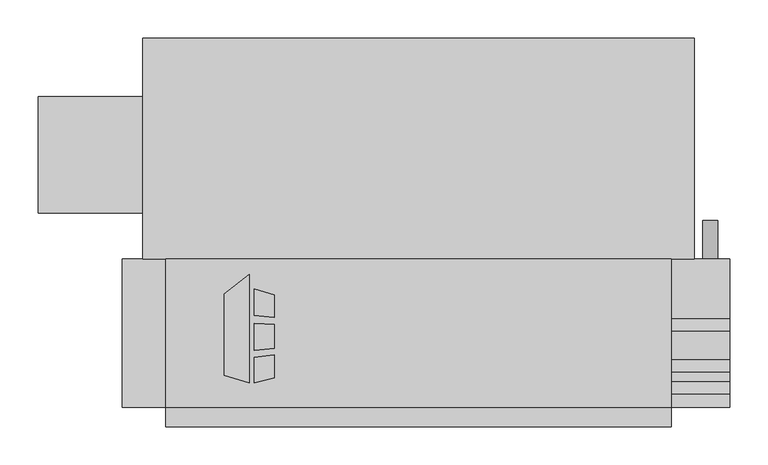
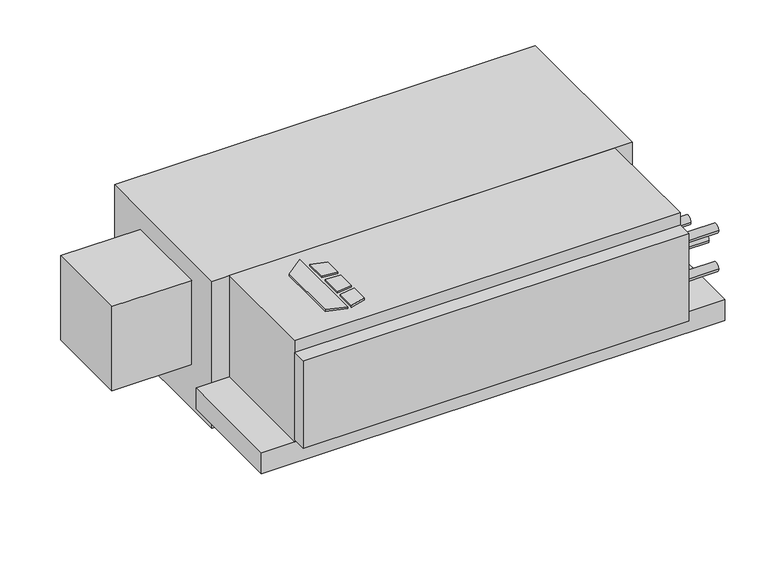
"""IFC4 building model written with IfcOpenShell, lengths in millimetres: proxy geometry, Concealed_Horizontal_Fan_Coil_Unit_With_Plenum_-_CPY_-_IEC_-_4-Pipe_RH_2022 : Size 04 - 277v/60Hz/1Ph - 4/1 Coil."""

import ifcopenshell
import ifcopenshell.guid

model = None  # the IFC model being written
_history = None  # IfcOwnerHistory: only IFC2X3 demands one
_inside = {}  # id of a spatial element -> (the spatial element, [elements in it])
_under = {}  # id of a project, library or spatial element -> (it, [spatial elements below it])
_declared = {}  # id of a project -> (the project, [libraries it declares])
_typed = {}  # id of a type object -> (the type object, [elements of that type])
_made_of = {}  # id of a material, layer set ... -> (it, [elements and type objects made of it])


def new_model(schema):
    """Start an empty IFC model of exactly this schema.

    Asked for "IFC4X3", IfcOpenShell would pick the latest addendum, in which some entities
    have other attributes; the version numbers below select the first issue.
    IFC2X3 requires an IfcOwnerHistory on every rooted entity: one is made here for all.
    """
    global model, _history
    if schema == "IFC4X3":
        model = ifcopenshell.file(schema_version=(4, 3, 0, 0))
    else:
        model = ifcopenshell.file(schema=schema)
    _inside.clear()
    _under.clear()
    _declared.clear()
    _typed.clear()
    _made_of.clear()
    _history = None
    if model.schema == "IFC2X3":
        org = make("IfcOrganization", Name="unknown")
        user = make(
            "IfcPersonAndOrganization",
            ThePerson=make("IfcPerson", FamilyName="unknown"),
            TheOrganization=org,
        )
        app = make(
            "IfcApplication",
            ApplicationDeveloper=org,
            Version="unknown",
            ApplicationFullName="unknown",
            ApplicationIdentifier="unknown",
        )
        _history = make(
            "IfcOwnerHistory",
            OwningUser=user,
            OwningApplication=app,
            ChangeAction="ADDED",
            CreationDate=0,
        )
    return model


def make(cls, **values):
    """One entity of the class cls with the attributes given. An attribute that is None is left unset."""
    return model.create_entity(
        cls, **{name: value for name, value in values.items() if value is not None}
    )


def rooted(cls, **values):
    """An entity with a GlobalId (a new one), such as an element, a storey or a relation."""
    return make(cls, GlobalId=ifcopenshell.guid.new(), OwnerHistory=_history, **values)


def si_unit(unit_type, name, prefix=None):
    """IfcSIUnit, for example si_unit("LENGTHUNIT", "METRE", prefix="MILLI")."""
    return make("IfcSIUnit", UnitType=unit_type, Prefix=prefix, Name=name)


def assignment(units):
    """IfcUnitAssignment: the units of a project."""
    return None if units is None else make("IfcUnitAssignment", Units=units)


def point(xyz):
    """IfcCartesianPoint."""
    return None if xyz is None else make("IfcCartesianPoint", Coordinates=xyz)


def direction(xyz):
    """IfcDirection."""
    return None if xyz is None else make("IfcDirection", DirectionRatios=xyz)


def frame(location, z_axis=None, x_axis=None):
    """IfcAxis2Placement3D, a coordinate frame: its origin and axes. An axis left out is left unset."""
    return make(
        "IfcAxis2Placement3D",
        Location=point(location),
        Axis=direction(z_axis),
        RefDirection=direction(x_axis),
    )


def frame_2d(location, x_axis=None):
    """IfcAxis2Placement2D, a coordinate frame in the plane: its origin and x axis."""
    return make(
        "IfcAxis2Placement2D", Location=point(location), RefDirection=direction(x_axis)
    )


def origin():
    """The frame at (0, 0, 0) with its axes left unset."""
    return frame((0.0, 0.0, 0.0))


def origin_with_axes():
    """The frame at (0, 0, 0) with the z axis (0, 0, 1) and the x axis (1, 0, 0) written out."""
    return frame((0.0, 0.0, 0.0), z_axis=(0.0, 0.0, 1.0), x_axis=(1.0, 0.0, 0.0))


def place(relative_to, where):
    """IfcLocalPlacement: puts the frame where relative to a parent placement (None: the world)."""
    return make(
        "IfcLocalPlacement", PlacementRelTo=relative_to, RelativePlacement=where
    )


def context(
    kind, dimensions, precision=None, world=None, true_north=None, identifier=None
):
    """IfcGeometricRepresentationContext, for example the 3D "Model" context."""
    return make(
        "IfcGeometricRepresentationContext",
        ContextIdentifier=identifier,
        ContextType=kind,
        CoordinateSpaceDimension=dimensions,
        Precision=precision,
        WorldCoordinateSystem=world,
        TrueNorth=true_north,
    )


def project(units=None, contexts=None):
    """IfcProject with its units and contexts."""
    return rooted(
        "IfcProject",
        Name="project",
        RepresentationContexts=contexts,
        UnitsInContext=assignment(units),
    )


def spatial(cls, under=None, at=None, **own):
    """A site, building, storey or space (cls), placed at a placement, below another one or the project."""
    s = rooted(cls, ObjectPlacement=at, **own)
    if under is not None:
        _under.setdefault(under.id(), (under, []))[1].append(s)
    return s


def polyline(points):
    """IfcPolyline through the points."""
    return make("IfcPolyline", Points=[point(p) for p in points])


def circle_curve(where, radius):
    """IfcCircle in the frame where."""
    return make("IfcCircle", Position=where, Radius=radius)


def trimmed(basis, trim1, trim2, sense, master):
    """IfcTrimmedCurve: the piece of a basis curve between two trims."""
    return make(
        "IfcTrimmedCurve",
        BasisCurve=basis,
        Trim1=trim1,
        Trim2=trim2,
        SenseAgreement=sense,
        MasterRepresentation=master,
    )


def segment(curve, same_sense, transition):
    """IfcCompositeCurveSegment."""
    return make(
        "IfcCompositeCurveSegment",
        Transition=transition,
        SameSense=same_sense,
        ParentCurve=curve,
    )


def composite_curve(segments, self_intersect=None):
    """IfcCompositeCurve: segments joined end to end."""
    return make("IfcCompositeCurve", Segments=segments, SelfIntersect=self_intersect)


def outline(outer, holes=None, kind="AREA"):
    """IfcArbitraryClosedProfileDef: a profile drawn as a closed curve; with holes, ...WithVoids."""
    if holes is None:
        return make("IfcArbitraryClosedProfileDef", ProfileType=kind, OuterCurve=outer)
    return make(
        "IfcArbitraryProfileDefWithVoids",
        ProfileType=kind,
        OuterCurve=outer,
        InnerCurves=holes,
    )


def extrude(swept, where, along, depth):
    """IfcExtrudedAreaSolid: the profile swept, set in the frame where, extruded along a direction by depth."""
    return make(
        "IfcExtrudedAreaSolid",
        SweptArea=swept,
        Position=where,
        ExtrudedDirection=direction(along),
        Depth=depth,
    )


def shape(context_of_items, identifier, shape_type, items):
    """IfcShapeRepresentation: the items that make up one representation, for example the "Body"."""
    return make(
        "IfcShapeRepresentation",
        ContextOfItems=context_of_items,
        RepresentationIdentifier=identifier,
        RepresentationType=shape_type,
        Items=items,
    )


def source(mapping_origin, context_of_items, identifier, shape_type, items):
    """IfcRepresentationMap: a shape defined once, which mapped items show again and again."""
    return make(
        "IfcRepresentationMap",
        MappingOrigin=mapping_origin,
        MappedRepresentation=shape(context_of_items, identifier, shape_type, items),
    )


def transform(
    local_origin,
    x_axis=None,
    y_axis=None,
    z_axis=None,
    scale=None,
    scale2=None,
    scale3=None,
    uniform=True,
):
    """IfcCartesianTransformationOperator3D, or its non-uniform kind. x_axis, y_axis, z_axis: its Axis1, 2, 3."""
    if uniform:
        return make(
            "IfcCartesianTransformationOperator3D",
            Axis1=direction(x_axis),
            Axis2=direction(y_axis),
            LocalOrigin=point(local_origin),
            Scale=scale,
            Axis3=direction(z_axis),
        )
    return make(
        "IfcCartesianTransformationOperator3DnonUniform",
        Axis1=direction(x_axis),
        Axis2=direction(y_axis),
        LocalOrigin=point(local_origin),
        Scale=scale,
        Axis3=direction(z_axis),
        Scale2=scale2,
        Scale3=scale3,
    )


def mapped(mapping_source, mapping_target):
    """IfcMappedItem: shows the shape of a source again, moved by a transform."""
    return make(
        "IfcMappedItem", MappingSource=mapping_source, MappingTarget=mapping_target
    )


def made_of(thing, what):
    """Note that an element or type object is made of a material, layer set ...; save() writes the relation."""
    if what is not None:
        _made_of.setdefault(what.id(), (what, []))[1].append(thing)
    return thing


def element(
    cls,
    number,
    at=None,
    inside=None,
    cuts=None,
    type_object=None,
    material=None,
    context=None,
    identifier="Body",
    shape_type=None,
    held_by="IfcProductDefinitionShape",
    body=None,
    shapes=None,
    **own,
):
    """One element of the class cls, such as IfcWall. Its Tag is "e" and its number.

    at: its placement. inside: the storey or other place that contains it. cuts: it is an
    opening in that element (IfcRelVoidsElement). A single representation is given by context,
    identifier, shape_type and body (its items); several are given by shapes. held_by: the class
    of the entity that holds the representations. save() writes the other relations.
    """
    e = rooted(cls, Tag="e%d" % number, ObjectPlacement=at, **own)
    if body is not None:
        shapes = [shape(context, identifier, shape_type, body)]
    if shapes is not None:
        e.Representation = make(held_by, Representations=shapes)
    if inside is not None:
        _inside.setdefault(inside.id(), (inside, []))[1].append(e)
    if cuts is not None:
        rooted(
            "IfcRelVoidsElement", RelatingBuildingElement=cuts, RelatedOpeningElement=e
        )
    if type_object is not None:
        _typed.setdefault(type_object.id(), (type_object, []))[1].append(e)
    return made_of(e, material)


def aggregate(whole, parts):
    """IfcRelAggregates: a whole, such as a stair, and the parts it consists of."""
    return rooted("IfcRelAggregates", RelatingObject=whole, RelatedObjects=parts)


def save(model, path):
    """Write the relations noted so far, then the file.

    IfcRelAggregates (storeys below a building ...), IfcRelContainedInSpatialStructure (elements
    in a storey), IfcRelDefinesByType, IfcRelAssociatesMaterial and IfcRelDeclares: one each for
    every whole, place, type object, material and project.
    """
    for whole, parts in _under.values():
        aggregate(whole, parts)
    for where, things in _inside.values():
        rooted(
            "IfcRelContainedInSpatialStructure",
            RelatedElements=things,
            RelatingStructure=where,
        )
    for kind, things in _typed.values():
        rooted("IfcRelDefinesByType", RelatedObjects=things, RelatingType=kind)
    for what, things in _made_of.values():
        rooted("IfcRelAssociatesMaterial", RelatedObjects=things, RelatingMaterial=what)
    for by, libraries in _declared.values():
        rooted("IfcRelDeclares", RelatingContext=by, RelatedDefinitions=libraries)
    model.write(path)


def mechanical_equipment_384acc31(model_context):
    return source(origin(), model_context, "Body", "SweptSolid", [
        extrude(outline(polyline([(-101.6, -186.6953476), (-69.0417033, -161.2580184), (-69.0417033, -303.2125), (-101.6, -292.9929201), (-101.6, -186.6953476)])), origin_with_axes(), (0.0, 0.0, 1.0), 3.175),
        extrude(outline(polyline([(-62.2833703, -214.567352), (-62.2833703, -180.0874379), (-36.2019761, -188.2740115), (-36.2019761, -217.7697446), (-62.2833703, -214.567352)])), origin_with_axes(), (0.0, 0.0, 1.0), 3.175),
        extrude(outline(polyline([(-36.2019761, -296.2240115), (-62.2833703, -303.2125), (-62.2833703, -269.9911996), (-36.2019761, -266.4493564), (-36.2019761, -296.2240115)])), origin_with_axes(), (0.0, 0.0, 1.0), 3.175),
        extrude(outline(polyline([(-36.2019761, -226.8513277), (-36.2019761, -258.101483), (-62.2833703, -260.842748), (-62.2833703, -224.9850378), (-36.2019761, -226.8513277)])), origin_with_axes(), (0.0, 0.0, 1.0), 3.175),
        extrude(outline(composite_curve([segment(trimmed(circle_curve(frame_2d((-209.55, 533.4)), 9.525), [point((-209.55, 523.875))], [point((-209.55, 542.925))], False, "CARTESIAN"), True, "CONTINUOUS"), segment(trimmed(circle_curve(frame_2d((-209.55, 533.4)), 9.525), [point((-209.55, 542.925))], [point((-209.55, 523.875))], False, "CARTESIAN"), True, "CONTINUOUS")], self_intersect=False)), frame((0.0, -141.2875, 0.0), z_axis=(0.0, 1.0, 0.0), x_axis=(0.0, 0.0, 1.0)), (0.0, 0.0, 1.0), 50.8),
        extrude(outline(composite_curve([segment(trimmed(circle_curve(frame_2d((-309.5625, -69.85)), 7.9375), [point((-317.5, -69.85))], [point((-301.625, -69.85))], False, "CARTESIAN"), True, "CONTINUOUS"), segment(trimmed(circle_curve(frame_2d((-309.5625, -69.85)), 7.9375), [point((-301.625, -69.85))], [point((-317.5, -69.85))], False, "CARTESIAN"), True, "CONTINUOUS")], self_intersect=False)), frame((482.6, 0.0, 0.0), z_axis=(1.0, 0.0, 0.0), x_axis=(0.0, 1.0, 0.0)), (0.0, 0.0, 1.0), 76.2),
        extrude(outline(composite_curve([segment(trimmed(circle_curve(frame_2d((-309.5625, -139.7)), 7.9375), [point((-317.5, -139.7))], [point((-301.625, -139.7))], False, "CARTESIAN"), True, "CONTINUOUS"), segment(trimmed(circle_curve(frame_2d((-309.5625, -139.7)), 7.9375), [point((-301.625, -139.7))], [point((-317.5, -139.7))], False, "CARTESIAN"), True, "CONTINUOUS")], self_intersect=False)), frame((482.6, 0.0, 0.0), z_axis=(1.0, 0.0, 0.0), x_axis=(0.0, 1.0, 0.0)), (0.0, 0.0, 1.0), 76.2),
        extrude(outline(composite_curve([segment(trimmed(circle_curve(frame_2d((-227.0125, -104.775)), 7.9375), [point((-234.95, -104.775))], [point((-219.075, -104.775))], False, "CARTESIAN"), True, "CONTINUOUS"), segment(trimmed(circle_curve(frame_2d((-227.0125, -104.775)), 7.9375), [point((-219.075, -104.775))], [point((-234.95, -104.775))], False, "CARTESIAN"), True, "CONTINUOUS")], self_intersect=False)), frame((482.6, 0.0, 0.0), z_axis=(1.0, 0.0, 0.0), x_axis=(0.0, 1.0, 0.0)), (0.0, 0.0, 1.0), 76.2),
        extrude(outline(composite_curve([segment(trimmed(circle_curve(frame_2d((-280.9875, -104.775)), 7.9375), [point((-288.925, -104.775))], [point((-273.05, -104.775))], False, "CARTESIAN"), True, "CONTINUOUS"), segment(trimmed(circle_curve(frame_2d((-280.9875, -104.775)), 7.9375), [point((-273.05, -104.775))], [point((-288.925, -104.775))], False, "CARTESIAN"), True, "CONTINUOUS")], self_intersect=False)), frame((482.6, 0.0, 0.0), z_axis=(1.0, 0.0, 0.0), x_axis=(0.0, 1.0, 0.0)), (0.0, 0.0, 1.0), 76.2),
        extrude(outline(polyline([(482.6, -334.9625), (482.6, -360.3625), (-177.8, -360.3625), (-177.8, -334.9625), (482.6, -334.9625)])), frame((0.0, 0.0, -180.975), z_axis=(0.0, 0.0, 1.0), x_axis=(1.0, 0.0, 0.0)), (0.0, 0.0, 1.0), 158.75),
        extrude(outline(polyline([(482.6, -334.9625), (-177.8, -334.9625), (-177.8, -141.2875), (482.6, -141.2875), (482.6, -334.9625)])), frame((0.0, 0.0, -184.15), z_axis=(0.0, 0.0, 1.0), x_axis=(1.0, 0.0, 0.0)), (0.0, 0.0, 1.0), 184.15),
        extrude(outline(polyline([(558.8, -141.2875), (558.8, -334.9625), (-234.95, -334.9625), (-234.95, -141.2875), (558.8, -141.2875)])), frame((0.0, 0.0, -222.25), z_axis=(0.0, 0.0, 1.0), x_axis=(1.0, 0.0, 0.0)), (0.0, 0.0, 1.0), 38.1),
        extrude(outline(polyline([(-344.4875, -80.9625), (-344.4875, 71.4375), (-207.9625, 71.4375), (-207.9625, -80.9625), (-344.4875, -80.9625)])), frame((0.0, 0.0, -187.325), z_axis=(0.0, 0.0, 1.0), x_axis=(1.0, 0.0, 0.0)), (0.0, 0.0, 1.0), 152.4),
        extrude(outline(polyline([(-207.9625, 147.6375), (512.7625, 147.6375), (512.7625, -141.2875), (-207.9625, -141.2875), (-207.9625, 147.6375)])), frame((0.0, 0.0, -266.7), z_axis=(0.0, 0.0, 1.0), x_axis=(1.0, 0.0, 0.0)), (0.0, 0.0, 1.0), 266.7),
    ])


if __name__ == "__main__":
    model = new_model("IFC4")
    model_context = context("Model", 3, world=origin())
    ifc_project = project(units=[si_unit("LENGTHUNIT", "METRE", prefix="MILLI")], contexts=[model_context])
    site = spatial("IfcSite", under=ifc_project)
    building = spatial("IfcBuilding", under=site)
    placement = place(None, origin())
    mechanical_equipment_shape = mechanical_equipment_384acc31(model_context)
    element("IfcBuildingElementProxy", 1, Name="Concealed_Horizontal_Fan_Coil_Unit_With_Plenum_-_CPY_-_IEC_-_4-Pipe_RH_2022 : Size 04 - 277v/60Hz/1Ph - 4/1 Coil", ObjectType="Concealed_Horizontal_Fan_Coil_Unit_With_Plenum_-_CPY_-_IEC_-_4-Pipe_RH_2022 : Size 04 - 277v/60Hz/1Ph - 4/1 Coil", at=placement, inside=building, context=model_context, shape_type="MappedRepresentation", body=[
        mapped(mechanical_equipment_shape, transform((0.0, 0.0, 0.0), x_axis=(1.0, 0.0, 0.0), y_axis=(0.0, 1.0, 0.0), z_axis=(0.0, 0.0, 1.0))),
    ])
    save(model, "model.ifc")
